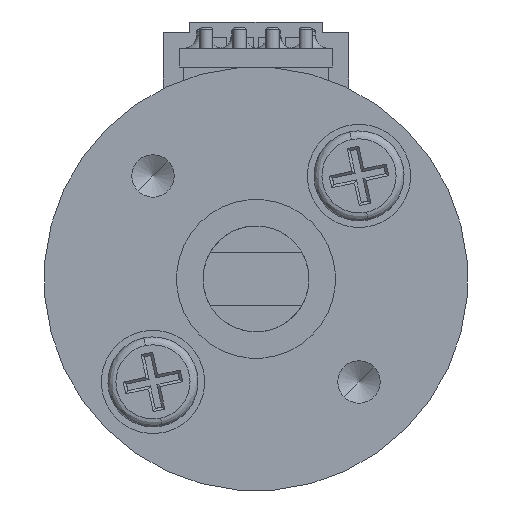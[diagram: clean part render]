
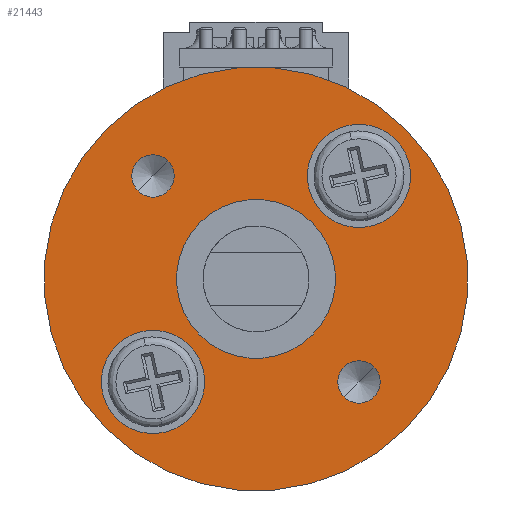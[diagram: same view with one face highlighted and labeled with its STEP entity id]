
A CAD part, front view. The second image highlights one B-rep face of the part: STEP entity #21443.
In plain terms, the highlighted planar face has unit normal (0, -1, 0) as drawn and (1, 0, 0) by its records, which use the part's own axes.
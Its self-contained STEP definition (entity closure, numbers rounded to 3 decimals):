
#464 = EDGE_LOOP ( 'NONE', ( #37653, #10297 ) ) ;
#730 = CIRCLE ( 'NONE', #30999, 8. ) ;
#815 = DIRECTION ( 'NONE',  ( 1., 0., 0. ) ) ;
#953 = CARTESIAN_POINT ( 'NONE',  ( 15.5, 0., 0. ) ) ;
#1035 = VERTEX_POINT ( 'NONE', #25510 ) ;
#1167 = CARTESIAN_POINT ( 'NONE',  ( 15.5, 0., 0. ) ) ;
#2084 = ORIENTED_EDGE ( 'NONE', *, *, #21070, .F. ) ;
#2709 = AXIS2_PLACEMENT_3D ( 'NONE', #27362, #4484, #24467 ) ;
#2747 = CARTESIAN_POINT ( 'NONE',  ( 15.5, 0., -7.45 ) ) ;
#3228 = EDGE_LOOP ( 'NONE', ( #34862, #28147 ) ) ;
#3857 = FACE_BOUND ( 'NONE', #464, .T. ) ;
#3951 = VERTEX_POINT ( 'NONE', #34003 ) ;
#4199 = VERTEX_POINT ( 'NONE', #18315 ) ;
#4484 = DIRECTION ( 'NONE',  ( 1., 0., 0. ) ) ;
#4747 = CARTESIAN_POINT ( 'NONE',  ( 15.5, 5.5, 0. ) ) ;
#4763 = DIRECTION ( 'NONE',  ( 0., 0., 1. ) ) ;
#4888 = FACE_BOUND ( 'NONE', #16030, .T. ) ;
#4890 = CARTESIAN_POINT ( 'NONE',  ( 15.5, 0., 0. ) ) ;
#4982 = VERTEX_POINT ( 'NONE', #32698 ) ;
#5094 = EDGE_LOOP ( 'NONE', ( #10189, #2084 ) ) ;
#5242 = CARTESIAN_POINT ( 'NONE',  ( 15.5, 0., 7.45 ) ) ;
#5527 = CARTESIAN_POINT ( 'NONE',  ( 15.5, 0., 5.5 ) ) ;
#5740 = CARTESIAN_POINT ( 'NONE',  ( 15.5, 8., 0. ) ) ;
#6113 = AXIS2_PLACEMENT_3D ( 'NONE', #4747, #30433, #30565 ) ;
#6291 = AXIS2_PLACEMENT_3D ( 'NONE', #1167, #24049, #4763 ) ;
#6564 = EDGE_CURVE ( 'NONE', #25412, #16880, #8164, .T. ) ;
#7289 = DIRECTION ( 'NONE',  ( 1., 0., 0. ) ) ;
#7483 = AXIS2_PLACEMENT_3D ( 'NONE', #953, #7289, #23976 ) ;
#8164 = CIRCLE ( 'NONE', #9065, 1.95 ) ;
#8186 = CIRCLE ( 'NONE', #19043, 1.95 ) ;
#8784 = DIRECTION ( 'NONE',  ( 1., 0., 0. ) ) ;
#9065 = AXIS2_PLACEMENT_3D ( 'NONE', #36056, #9431, #41958 ) ;
#9431 = DIRECTION ( 'NONE',  ( 1., 0., 0. ) ) ;
#10189 = ORIENTED_EDGE ( 'NONE', *, *, #22706, .F. ) ;
#10197 = DIRECTION ( 'NONE',  ( 1., 0., 0. ) ) ;
#10297 = ORIENTED_EDGE ( 'NONE', *, *, #6564, .F. ) ;
#10547 = EDGE_CURVE ( 'NONE', #3951, #1035, #730, .T. ) ;
#10633 = CARTESIAN_POINT ( 'NONE',  ( 15.5, 0., 5.5 ) ) ;
#10894 = CARTESIAN_POINT ( 'NONE',  ( 15.5, 0., -3. ) ) ;
#11489 = FACE_BOUND ( 'NONE', #15408, .T. ) ;
#11756 = AXIS2_PLACEMENT_3D ( 'NONE', #5527, #8784, #38436 ) ;
#11864 = CARTESIAN_POINT ( 'NONE',  ( 15.5, 5.5, 0.8 ) ) ;
#12056 = CIRCLE ( 'NONE', #11756, 1.95 ) ;
#12269 = DIRECTION ( 'NONE',  ( -1., 0., 0. ) ) ;
#15399 = CIRCLE ( 'NONE', #40256, 0.8 ) ;
#15408 = EDGE_LOOP ( 'NONE', ( #42310, #17107 ) ) ;
#15476 = VERTEX_POINT ( 'NONE', #21321 ) ;
#15752 = CIRCLE ( 'NONE', #36411, 8. ) ;
#16030 = EDGE_LOOP ( 'NONE', ( #37913, #25749 ) ) ;
#16880 = VERTEX_POINT ( 'NONE', #2747 ) ;
#17107 = ORIENTED_EDGE ( 'NONE', *, *, #26779, .F. ) ;
#18018 = CARTESIAN_POINT ( 'NONE',  ( 15.5, -5.5, -0.8 ) ) ;
#18035 = EDGE_CURVE ( 'NONE', #1035, #3951, #15752, .T. ) ;
#18040 = CARTESIAN_POINT ( 'NONE',  ( 15.5, 0., -3.55 ) ) ;
#18315 = CARTESIAN_POINT ( 'NONE',  ( 15.5, 0., 3.55 ) ) ;
#19043 = AXIS2_PLACEMENT_3D ( 'NONE', #21817, #31348, #41590 ) ;
#19720 = DIRECTION ( 'NONE',  ( 0., 0., -1. ) ) ;
#20025 = VERTEX_POINT ( 'NONE', #11864 ) ;
#20234 = CIRCLE ( 'NONE', #7483, 3. ) ;
#20390 = ORIENTED_EDGE ( 'NONE', *, *, #34351, .F. ) ;
#20733 = CIRCLE ( 'NONE', #33776, 0.8 ) ;
#21070 = EDGE_CURVE ( 'NONE', #38221, #39529, #20733, .T. ) ;
#21132 = FACE_OUTER_BOUND ( 'NONE', #3228, .T. ) ;
#21321 = CARTESIAN_POINT ( 'NONE',  ( 15.5, 0., 3. ) ) ;
#21443 = ADVANCED_FACE ( 'NONE', ( #22146, #21132, #3857, #4888, #11489, #25210 ), #31715, .F. ) ;
#21817 = CARTESIAN_POINT ( 'NONE',  ( 15.5, 0., -5.5 ) ) ;
#21998 = DIRECTION ( 'NONE',  ( 0., 0., 1. ) ) ;
#22146 = FACE_BOUND ( 'NONE', #36305, .T. ) ;
#22611 = AXIS2_PLACEMENT_3D ( 'NONE', #10633, #10197, #19720 ) ;
#22706 = EDGE_CURVE ( 'NONE', #39529, #38221, #15399, .T. ) ;
#23159 = EDGE_CURVE ( 'NONE', #16880, #25412, #8186, .T. ) ;
#23844 = CARTESIAN_POINT ( 'NONE',  ( 15.5, -5.5, 0. ) ) ;
#23976 = DIRECTION ( 'NONE',  ( 0., 0., 1. ) ) ;
#24049 = DIRECTION ( 'NONE',  ( 1., 0., 0. ) ) ;
#24467 = DIRECTION ( 'NONE',  ( 0., 0., -1. ) ) ;
#24631 = EDGE_CURVE ( 'NONE', #39540, #4199, #24885, .T. ) ;
#24885 = CIRCLE ( 'NONE', #22611, 1.95 ) ;
#25210 = FACE_BOUND ( 'NONE', #5094, .T. ) ;
#25263 = CARTESIAN_POINT ( 'NONE',  ( 15.5, 0., 0. ) ) ;
#25412 = VERTEX_POINT ( 'NONE', #18040 ) ;
#25510 = CARTESIAN_POINT ( 'NONE',  ( 15.5, 0., 8. ) ) ;
#25749 = ORIENTED_EDGE ( 'NONE', *, *, #24631, .F. ) ;
#25848 = EDGE_CURVE ( 'NONE', #4982, #20025, #41319, .T. ) ;
#26622 = CARTESIAN_POINT ( 'NONE',  ( 15.5, -5.5, 0. ) ) ;
#26779 = EDGE_CURVE ( 'NONE', #20025, #4982, #37536, .T. ) ;
#26829 = EDGE_CURVE ( 'NONE', #15476, #30755, #39997, .T. ) ;
#27362 = CARTESIAN_POINT ( 'NONE',  ( 15.5, 5.5, 0. ) ) ;
#27494 = DIRECTION ( 'NONE',  ( -1., 0., 0. ) ) ;
#28147 = ORIENTED_EDGE ( 'NONE', *, *, #10547, .F. ) ;
#28894 = DIRECTION ( 'NONE',  ( -1., 0., 0. ) ) ;
#30433 = DIRECTION ( 'NONE',  ( 1., 0., 0. ) ) ;
#30565 = DIRECTION ( 'NONE',  ( 0., 0., -1. ) ) ;
#30755 = VERTEX_POINT ( 'NONE', #10894 ) ;
#30999 = AXIS2_PLACEMENT_3D ( 'NONE', #4890, #27494, #41107 ) ;
#31174 = CARTESIAN_POINT ( 'NONE',  ( 15.5, -5.5, 0.8 ) ) ;
#31348 = DIRECTION ( 'NONE',  ( 1., 0., 0. ) ) ;
#31715 = PLANE ( 'NONE',  #32116 ) ;
#32116 = AXIS2_PLACEMENT_3D ( 'NONE', #5740, #12269, #38794 ) ;
#32698 = CARTESIAN_POINT ( 'NONE',  ( 15.5, 5.5, -0.8 ) ) ;
#32904 = DIRECTION ( 'NONE',  ( 1., 0., 0. ) ) ;
#32992 = EDGE_CURVE ( 'NONE', #4199, #39540, #12056, .T. ) ;
#33776 = AXIS2_PLACEMENT_3D ( 'NONE', #26622, #32904, #36530 ) ;
#34003 = CARTESIAN_POINT ( 'NONE',  ( 15.5, 0., -8. ) ) ;
#34351 = EDGE_CURVE ( 'NONE', #30755, #15476, #20234, .T. ) ;
#34862 = ORIENTED_EDGE ( 'NONE', *, *, #18035, .F. ) ;
#36056 = CARTESIAN_POINT ( 'NONE',  ( 15.5, 0., -5.5 ) ) ;
#36305 = EDGE_LOOP ( 'NONE', ( #40624, #20390 ) ) ;
#36411 = AXIS2_PLACEMENT_3D ( 'NONE', #25263, #28894, #21998 ) ;
#36479 = DIRECTION ( 'NONE',  ( 0., 0., -1. ) ) ;
#36530 = DIRECTION ( 'NONE',  ( 0., 0., -1. ) ) ;
#37536 = CIRCLE ( 'NONE', #2709, 0.8 ) ;
#37653 = ORIENTED_EDGE ( 'NONE', *, *, #23159, .F. ) ;
#37913 = ORIENTED_EDGE ( 'NONE', *, *, #32992, .F. ) ;
#38221 = VERTEX_POINT ( 'NONE', #31174 ) ;
#38436 = DIRECTION ( 'NONE',  ( 0., 0., -1. ) ) ;
#38794 = DIRECTION ( 'NONE',  ( 0., 0., 1. ) ) ;
#39529 = VERTEX_POINT ( 'NONE', #18018 ) ;
#39540 = VERTEX_POINT ( 'NONE', #5242 ) ;
#39997 = CIRCLE ( 'NONE', #6291, 3. ) ;
#40256 = AXIS2_PLACEMENT_3D ( 'NONE', #23844, #815, #36479 ) ;
#40624 = ORIENTED_EDGE ( 'NONE', *, *, #26829, .F. ) ;
#41107 = DIRECTION ( 'NONE',  ( 0., 0., 1. ) ) ;
#41319 = CIRCLE ( 'NONE', #6113, 0.8 ) ;
#41590 = DIRECTION ( 'NONE',  ( 0., 0., -1. ) ) ;
#41958 = DIRECTION ( 'NONE',  ( 0., 0., -1. ) ) ;
#42310 = ORIENTED_EDGE ( 'NONE', *, *, #25848, .F. ) ;
